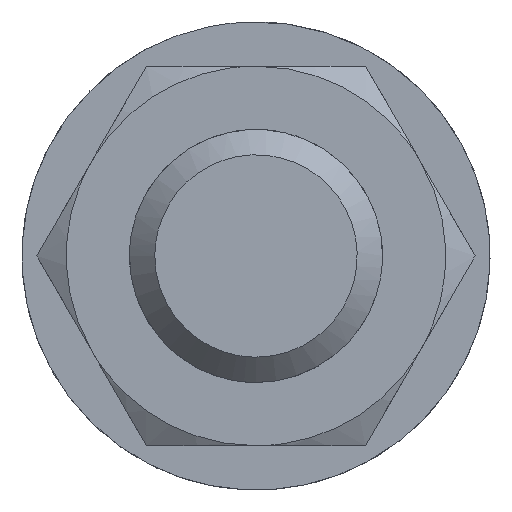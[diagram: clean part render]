
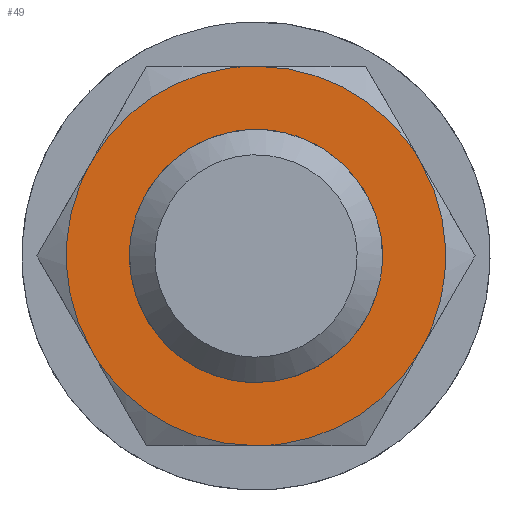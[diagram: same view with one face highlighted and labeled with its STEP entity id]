
A CAD part, left-side view. The second image highlights one B-rep face of the part: STEP entity #49.
In plain terms, the highlighted planar face has unit normal (-1, 0, 0).
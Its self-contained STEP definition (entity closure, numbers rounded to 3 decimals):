
#40=FACE_BOUND('',#138,.T.);
#49=ADVANCED_FACE('',(#92,#40),#658,.T.);
#92=FACE_OUTER_BOUND('',#137,.T.);
#137=EDGE_LOOP('',(#202,#203,#204,#205,#206,#207));
#138=EDGE_LOOP('',(#208,#209));
#202=ORIENTED_EDGE('',*,*,#403,.F.);
#203=ORIENTED_EDGE('',*,*,#405,.F.);
#204=ORIENTED_EDGE('',*,*,#406,.F.);
#205=ORIENTED_EDGE('',*,*,#404,.F.);
#206=ORIENTED_EDGE('',*,*,#402,.F.);
#207=ORIENTED_EDGE('',*,*,#401,.F.);
#208=ORIENTED_EDGE('',*,*,#391,.F.);
#209=ORIENTED_EDGE('',*,*,#389,.F.);
#389=EDGE_CURVE('',#604,#594,#515,.T.);
#391=EDGE_CURVE('',#594,#604,#516,.T.);
#401=EDGE_CURVE('',#598,#599,#524,.T.);
#402=EDGE_CURVE('',#599,#603,#525,.T.);
#403=EDGE_CURVE('',#600,#598,#526,.T.);
#404=EDGE_CURVE('',#603,#602,#527,.T.);
#405=EDGE_CURVE('',#601,#600,#528,.T.);
#406=EDGE_CURVE('',#602,#601,#529,.T.);
#515=(
BOUNDED_CURVE()
B_SPLINE_CURVE(2,(#1161,#1162,#1163,#1164,#1165),.UNSPECIFIED.,.F.,.F.)
B_SPLINE_CURVE_WITH_KNOTS((3,2,3),(31.416,47.125,62.833),
 .UNSPECIFIED.)
CURVE()
GEOMETRIC_REPRESENTATION_ITEM()
RATIONAL_B_SPLINE_CURVE((1.,0.707,1.,0.707,1.))
REPRESENTATION_ITEM('')
);
#516=(
BOUNDED_CURVE()
B_SPLINE_CURVE(2,(#1168,#1169,#1170,#1171,#1172),.UNSPECIFIED.,.F.,.F.)
B_SPLINE_CURVE_WITH_KNOTS((3,2,3),(0.,15.708,31.416),
 .UNSPECIFIED.)
CURVE()
GEOMETRIC_REPRESENTATION_ITEM()
RATIONAL_B_SPLINE_CURVE((1.,0.707,1.,0.707,1.))
REPRESENTATION_ITEM('')
);
#524=(
BOUNDED_CURVE()
B_SPLINE_CURVE(2,(#1210,#1211,#1212),.UNSPECIFIED.,.F.,.F.)
B_SPLINE_CURVE_WITH_KNOTS((3,3),(0.,15.708),.UNSPECIFIED.)
CURVE()
GEOMETRIC_REPRESENTATION_ITEM()
RATIONAL_B_SPLINE_CURVE((1.,0.866,1.))
REPRESENTATION_ITEM('')
);
#525=(
BOUNDED_CURVE()
B_SPLINE_CURVE(2,(#1213,#1214,#1215),.UNSPECIFIED.,.F.,.F.)
B_SPLINE_CURVE_WITH_KNOTS((3,3),(0.,15.708),.UNSPECIFIED.)
CURVE()
GEOMETRIC_REPRESENTATION_ITEM()
RATIONAL_B_SPLINE_CURVE((1.,0.866,1.))
REPRESENTATION_ITEM('')
);
#526=(
BOUNDED_CURVE()
B_SPLINE_CURVE(2,(#1216,#1217,#1218),.UNSPECIFIED.,.F.,.F.)
B_SPLINE_CURVE_WITH_KNOTS((3,3),(0.,15.708),.UNSPECIFIED.)
CURVE()
GEOMETRIC_REPRESENTATION_ITEM()
RATIONAL_B_SPLINE_CURVE((1.,0.866,1.))
REPRESENTATION_ITEM('')
);
#527=(
BOUNDED_CURVE()
B_SPLINE_CURVE(2,(#1219,#1220,#1221),.UNSPECIFIED.,.F.,.F.)
B_SPLINE_CURVE_WITH_KNOTS((3,3),(0.,15.708),.UNSPECIFIED.)
CURVE()
GEOMETRIC_REPRESENTATION_ITEM()
RATIONAL_B_SPLINE_CURVE((1.,0.866,1.))
REPRESENTATION_ITEM('')
);
#528=(
BOUNDED_CURVE()
B_SPLINE_CURVE(2,(#1222,#1223,#1224),.UNSPECIFIED.,.F.,.F.)
B_SPLINE_CURVE_WITH_KNOTS((3,3),(0.,15.708),.UNSPECIFIED.)
CURVE()
GEOMETRIC_REPRESENTATION_ITEM()
RATIONAL_B_SPLINE_CURVE((1.,0.866,1.))
REPRESENTATION_ITEM('')
);
#529=(
BOUNDED_CURVE()
B_SPLINE_CURVE(2,(#1225,#1226,#1227),.UNSPECIFIED.,.F.,.F.)
B_SPLINE_CURVE_WITH_KNOTS((3,3),(0.,15.708),.UNSPECIFIED.)
CURVE()
GEOMETRIC_REPRESENTATION_ITEM()
RATIONAL_B_SPLINE_CURVE((1.,0.866,1.))
REPRESENTATION_ITEM('')
);
#594=VERTEX_POINT('',#1129);
#598=VERTEX_POINT('',#1133);
#599=VERTEX_POINT('',#1134);
#600=VERTEX_POINT('',#1135);
#601=VERTEX_POINT('',#1136);
#602=VERTEX_POINT('',#1137);
#603=VERTEX_POINT('',#1138);
#604=VERTEX_POINT('',#1139);
#658=PLANE('',#772);
#772=AXIS2_PLACEMENT_3D('',#886,#798,$);
#798=DIRECTION('',(-1.,0.,0.));
#886=CARTESIAN_POINT('',(27.,-20.905,18.12));
#1129=CARTESIAN_POINT('',(27.,0.,-10.));
#1133=CARTESIAN_POINT('',(27.,-12.99,7.5));
#1134=CARTESIAN_POINT('',(27.,-12.99,-7.5));
#1135=CARTESIAN_POINT('',(27.,0.,15.));
#1136=CARTESIAN_POINT('',(27.,12.99,7.5));
#1137=CARTESIAN_POINT('',(27.,12.99,-7.5));
#1138=CARTESIAN_POINT('',(27.,0.,-15.));
#1139=CARTESIAN_POINT('',(27.,0.,10.));
#1161=CARTESIAN_POINT('',(27.,0.,10.));
#1162=CARTESIAN_POINT('',(27.,10.,10.));
#1163=CARTESIAN_POINT('',(27.,10.,0.));
#1164=CARTESIAN_POINT('',(27.,10.,-10.));
#1165=CARTESIAN_POINT('',(27.,0.,-10.));
#1168=CARTESIAN_POINT('',(27.,0.,-10.));
#1169=CARTESIAN_POINT('',(27.,-10.,-10.));
#1170=CARTESIAN_POINT('',(27.,-10.,0.));
#1171=CARTESIAN_POINT('',(27.,-10.,10.));
#1172=CARTESIAN_POINT('',(27.,0.,10.));
#1210=CARTESIAN_POINT('',(27.,-12.99,7.5));
#1211=CARTESIAN_POINT('',(27.,-17.321,0.));
#1212=CARTESIAN_POINT('',(27.,-12.99,-7.5));
#1213=CARTESIAN_POINT('',(27.,-12.99,-7.5));
#1214=CARTESIAN_POINT('',(27.,-8.66,-15.));
#1215=CARTESIAN_POINT('',(27.,0.,-15.));
#1216=CARTESIAN_POINT('',(27.,0.,15.));
#1217=CARTESIAN_POINT('',(27.,-8.66,15.));
#1218=CARTESIAN_POINT('',(27.,-12.99,7.5));
#1219=CARTESIAN_POINT('',(27.,0.,-15.));
#1220=CARTESIAN_POINT('',(27.,8.66,-15.));
#1221=CARTESIAN_POINT('',(27.,12.99,-7.5));
#1222=CARTESIAN_POINT('',(27.,12.99,7.5));
#1223=CARTESIAN_POINT('',(27.,8.66,15.));
#1224=CARTESIAN_POINT('',(27.,0.,15.));
#1225=CARTESIAN_POINT('',(27.,12.99,-7.5));
#1226=CARTESIAN_POINT('',(27.,17.321,0.));
#1227=CARTESIAN_POINT('',(27.,12.99,7.5));
